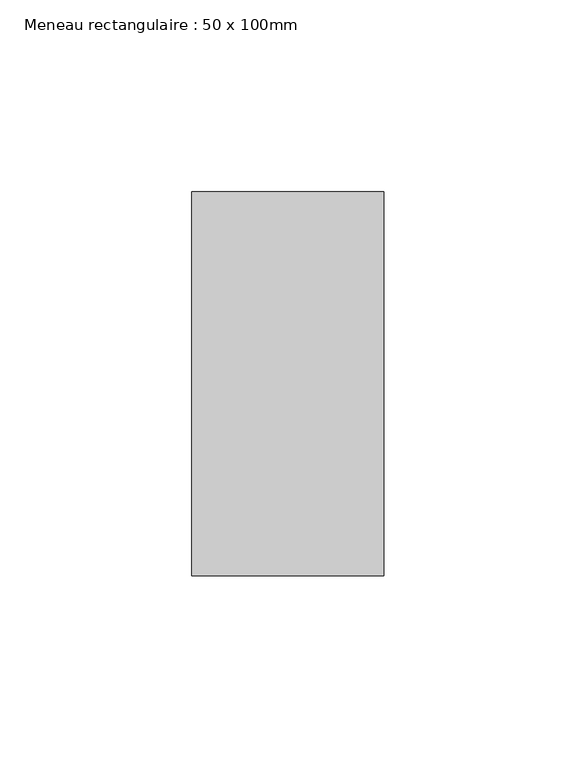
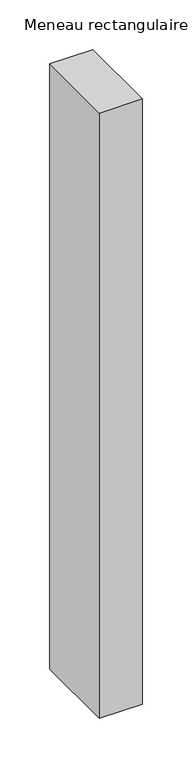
"""IFC4 building model written with IfcOpenShell, lengths in millimetres: member geometry, Meneau rectangulaire : 50 x 100mm."""

import ifcopenshell
import ifcopenshell.guid

model = None  # the IFC model being written
_history = None  # IfcOwnerHistory: only IFC2X3 demands one
_inside = {}  # id of a spatial element -> (the spatial element, [elements in it])
_under = {}  # id of a project, library or spatial element -> (it, [spatial elements below it])
_declared = {}  # id of a project -> (the project, [libraries it declares])
_typed = {}  # id of a type object -> (the type object, [elements of that type])
_made_of = {}  # id of a material, layer set ... -> (it, [elements and type objects made of it])


def new_model(schema):
    """Start an empty IFC model of exactly this schema.

    Asked for "IFC4X3", IfcOpenShell would pick the latest addendum, in which some entities
    have other attributes; the version numbers below select the first issue.
    IFC2X3 requires an IfcOwnerHistory on every rooted entity: one is made here for all.
    """
    global model, _history
    if schema == "IFC4X3":
        model = ifcopenshell.file(schema_version=(4, 3, 0, 0))
    else:
        model = ifcopenshell.file(schema=schema)
    _inside.clear()
    _under.clear()
    _declared.clear()
    _typed.clear()
    _made_of.clear()
    _history = None
    if model.schema == "IFC2X3":
        org = make("IfcOrganization", Name="unknown")
        user = make(
            "IfcPersonAndOrganization",
            ThePerson=make("IfcPerson", FamilyName="unknown"),
            TheOrganization=org,
        )
        app = make(
            "IfcApplication",
            ApplicationDeveloper=org,
            Version="unknown",
            ApplicationFullName="unknown",
            ApplicationIdentifier="unknown",
        )
        _history = make(
            "IfcOwnerHistory",
            OwningUser=user,
            OwningApplication=app,
            ChangeAction="ADDED",
            CreationDate=0,
        )
    return model


def make(cls, **values):
    """One entity of the class cls with the attributes given. An attribute that is None is left unset."""
    return model.create_entity(
        cls, **{name: value for name, value in values.items() if value is not None}
    )


def rooted(cls, **values):
    """An entity with a GlobalId (a new one), such as an element, a storey or a relation."""
    return make(cls, GlobalId=ifcopenshell.guid.new(), OwnerHistory=_history, **values)


def si_unit(unit_type, name, prefix=None):
    """IfcSIUnit, for example si_unit("LENGTHUNIT", "METRE", prefix="MILLI")."""
    return make("IfcSIUnit", UnitType=unit_type, Prefix=prefix, Name=name)


def assignment(units):
    """IfcUnitAssignment: the units of a project."""
    return None if units is None else make("IfcUnitAssignment", Units=units)


def point(xyz):
    """IfcCartesianPoint."""
    return None if xyz is None else make("IfcCartesianPoint", Coordinates=xyz)


def direction(xyz):
    """IfcDirection."""
    return None if xyz is None else make("IfcDirection", DirectionRatios=xyz)


def frame(location, z_axis=None, x_axis=None):
    """IfcAxis2Placement3D, a coordinate frame: its origin and axes. An axis left out is left unset."""
    return make(
        "IfcAxis2Placement3D",
        Location=point(location),
        Axis=direction(z_axis),
        RefDirection=direction(x_axis),
    )


def origin():
    """The frame at (0, 0, 0) with its axes left unset."""
    return frame((0.0, 0.0, 0.0))


def place(relative_to, where):
    """IfcLocalPlacement: puts the frame where relative to a parent placement (None: the world)."""
    return make(
        "IfcLocalPlacement", PlacementRelTo=relative_to, RelativePlacement=where
    )


def context(
    kind, dimensions, precision=None, world=None, true_north=None, identifier=None
):
    """IfcGeometricRepresentationContext, for example the 3D "Model" context."""
    return make(
        "IfcGeometricRepresentationContext",
        ContextIdentifier=identifier,
        ContextType=kind,
        CoordinateSpaceDimension=dimensions,
        Precision=precision,
        WorldCoordinateSystem=world,
        TrueNorth=true_north,
    )


def project(units=None, contexts=None):
    """IfcProject with its units and contexts."""
    return rooted(
        "IfcProject",
        Name="project",
        RepresentationContexts=contexts,
        UnitsInContext=assignment(units),
    )


def spatial(cls, under=None, at=None, **own):
    """A site, building, storey or space (cls), placed at a placement, below another one or the project."""
    s = rooted(cls, ObjectPlacement=at, **own)
    if under is not None:
        _under.setdefault(under.id(), (under, []))[1].append(s)
    return s


def polyline(points):
    """IfcPolyline through the points."""
    return make("IfcPolyline", Points=[point(p) for p in points])


def outline(outer, holes=None, kind="AREA"):
    """IfcArbitraryClosedProfileDef: a profile drawn as a closed curve; with holes, ...WithVoids."""
    if holes is None:
        return make("IfcArbitraryClosedProfileDef", ProfileType=kind, OuterCurve=outer)
    return make(
        "IfcArbitraryProfileDefWithVoids",
        ProfileType=kind,
        OuterCurve=outer,
        InnerCurves=holes,
    )


def extrude(swept, where, along, depth):
    """IfcExtrudedAreaSolid: the profile swept, set in the frame where, extruded along a direction by depth."""
    return make(
        "IfcExtrudedAreaSolid",
        SweptArea=swept,
        Position=where,
        ExtrudedDirection=direction(along),
        Depth=depth,
    )


def shape(context_of_items, identifier, shape_type, items):
    """IfcShapeRepresentation: the items that make up one representation, for example the "Body"."""
    return make(
        "IfcShapeRepresentation",
        ContextOfItems=context_of_items,
        RepresentationIdentifier=identifier,
        RepresentationType=shape_type,
        Items=items,
    )


def source(mapping_origin, context_of_items, identifier, shape_type, items):
    """IfcRepresentationMap: a shape defined once, which mapped items show again and again."""
    return make(
        "IfcRepresentationMap",
        MappingOrigin=mapping_origin,
        MappedRepresentation=shape(context_of_items, identifier, shape_type, items),
    )


def transform(
    local_origin,
    x_axis=None,
    y_axis=None,
    z_axis=None,
    scale=None,
    scale2=None,
    scale3=None,
    uniform=True,
):
    """IfcCartesianTransformationOperator3D, or its non-uniform kind. x_axis, y_axis, z_axis: its Axis1, 2, 3."""
    if uniform:
        return make(
            "IfcCartesianTransformationOperator3D",
            Axis1=direction(x_axis),
            Axis2=direction(y_axis),
            LocalOrigin=point(local_origin),
            Scale=scale,
            Axis3=direction(z_axis),
        )
    return make(
        "IfcCartesianTransformationOperator3DnonUniform",
        Axis1=direction(x_axis),
        Axis2=direction(y_axis),
        LocalOrigin=point(local_origin),
        Scale=scale,
        Axis3=direction(z_axis),
        Scale2=scale2,
        Scale3=scale3,
    )


def mapped(mapping_source, mapping_target):
    """IfcMappedItem: shows the shape of a source again, moved by a transform."""
    return make(
        "IfcMappedItem", MappingSource=mapping_source, MappingTarget=mapping_target
    )


def made_of(thing, what):
    """Note that an element or type object is made of a material, layer set ...; save() writes the relation."""
    if what is not None:
        _made_of.setdefault(what.id(), (what, []))[1].append(thing)
    return thing


def element(
    cls,
    number,
    at=None,
    inside=None,
    cuts=None,
    type_object=None,
    material=None,
    context=None,
    identifier="Body",
    shape_type=None,
    held_by="IfcProductDefinitionShape",
    body=None,
    shapes=None,
    **own,
):
    """One element of the class cls, such as IfcWall. Its Tag is "e" and its number.

    at: its placement. inside: the storey or other place that contains it. cuts: it is an
    opening in that element (IfcRelVoidsElement). A single representation is given by context,
    identifier, shape_type and body (its items); several are given by shapes. held_by: the class
    of the entity that holds the representations. save() writes the other relations.
    """
    e = rooted(cls, Tag="e%d" % number, ObjectPlacement=at, **own)
    if body is not None:
        shapes = [shape(context, identifier, shape_type, body)]
    if shapes is not None:
        e.Representation = make(held_by, Representations=shapes)
    if inside is not None:
        _inside.setdefault(inside.id(), (inside, []))[1].append(e)
    if cuts is not None:
        rooted(
            "IfcRelVoidsElement", RelatingBuildingElement=cuts, RelatedOpeningElement=e
        )
    if type_object is not None:
        _typed.setdefault(type_object.id(), (type_object, []))[1].append(e)
    return made_of(e, material)


def aggregate(whole, parts):
    """IfcRelAggregates: a whole, such as a stair, and the parts it consists of."""
    return rooted("IfcRelAggregates", RelatingObject=whole, RelatedObjects=parts)


def save(model, path):
    """Write the relations noted so far, then the file.

    IfcRelAggregates (storeys below a building ...), IfcRelContainedInSpatialStructure (elements
    in a storey), IfcRelDefinesByType, IfcRelAssociatesMaterial and IfcRelDeclares: one each for
    every whole, place, type object, material and project.
    """
    for whole, parts in _under.values():
        aggregate(whole, parts)
    for where, things in _inside.values():
        rooted(
            "IfcRelContainedInSpatialStructure",
            RelatedElements=things,
            RelatingStructure=where,
        )
    for kind, things in _typed.values():
        rooted("IfcRelDefinesByType", RelatedObjects=things, RelatingType=kind)
    for what, things in _made_of.values():
        rooted("IfcRelAssociatesMaterial", RelatedObjects=things, RelatingMaterial=what)
    for by, libraries in _declared.values():
        rooted("IfcRelDeclares", RelatingContext=by, RelatedDefinitions=libraries)
    model.write(path)


def meneau_rectangulaire_50_x_100mm_75cd286d(model_context):
    return source(origin(), model_context, "Body", "SweptSolid", [
        extrude(outline(polyline([(0.0, 50.0), (0.0, -50.0), (-50.0, -50.0), (-50.0, 50.0), (0.0, 50.0)])), frame((0.0, 0.0, -745.0), z_axis=(0.0, 0.0, 1.0), x_axis=(1.0, 0.0, 0.0)), (0.0, 0.0, 1.0), 745.0),
    ])


if __name__ == "__main__":
    model = new_model("IFC4")
    model_context = context("Model", 3, world=origin())
    ifc_project = project(units=[si_unit("LENGTHUNIT", "METRE", prefix="MILLI")], contexts=[model_context])
    site = spatial("IfcSite", under=ifc_project)
    building = spatial("IfcBuilding", under=site)
    placement = place(None, origin())
    meneau_rectangulaire_50_x_100mm_shape = meneau_rectangulaire_50_x_100mm_75cd286d(model_context)
    element("IfcMember", 1, ObjectType="Meneau rectangulaire : 50 x 100mm", at=placement, inside=building, context=model_context, shape_type="MappedRepresentation", body=[
        mapped(meneau_rectangulaire_50_x_100mm_shape, transform((0.0, 0.0, 0.0), x_axis=(1.0, 0.0, 0.0), y_axis=(0.0, 1.0, 0.0), z_axis=(0.0, 0.0, 1.0))),
    ])
    save(model, "model.ifc")
